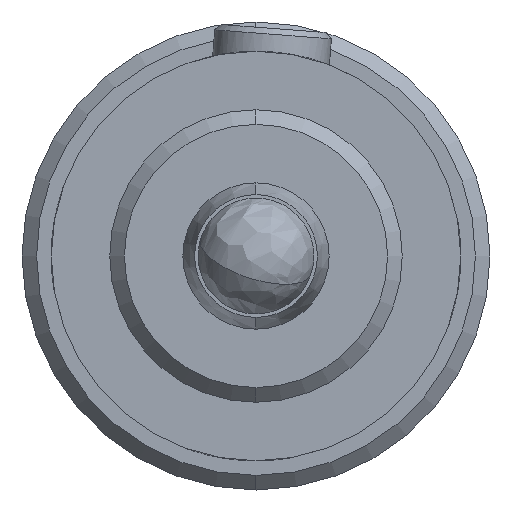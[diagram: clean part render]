
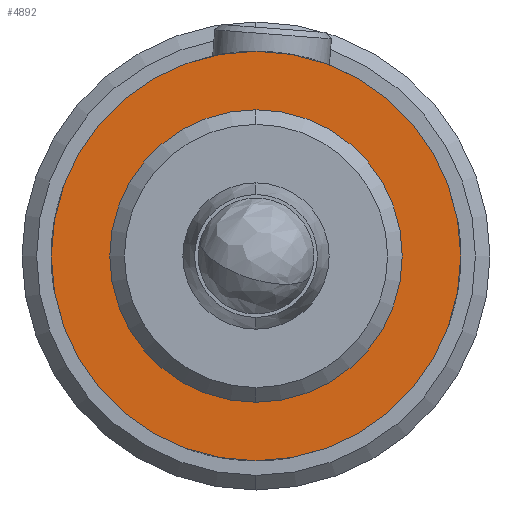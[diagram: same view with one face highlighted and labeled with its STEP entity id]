
A CAD part, left-side view. The second image highlights one B-rep face of the part: STEP entity #4892.
In plain terms, the highlighted planar face has unit normal (-1, 0, 0).
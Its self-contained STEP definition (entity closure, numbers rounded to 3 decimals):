
#1496 = CARTESIAN_POINT ( 'NONE',  ( 5.5, 5.36, 0. ) ) ;
#2280 = DIRECTION ( 'NONE',  ( 0., 1., 0. ) ) ;
#2281 = DIRECTION ( 'NONE',  ( -1., 0., 0. ) ) ;
#2282 = CARTESIAN_POINT ( 'NONE',  ( 5.5, -1.64, 0. ) ) ;
#2283 = AXIS2_PLACEMENT_3D ( 'NONE', #2282, #2281, #2280 ) ;
#2288 = CIRCLE ( 'NONE', #2283, 4.4 ) ;
#2355 = DIRECTION ( 'NONE',  ( 0., 1., 0. ) ) ;
#2356 = DIRECTION ( 'NONE',  ( 1., 0., 0. ) ) ;
#2371 = CARTESIAN_POINT ( 'NONE',  ( 5.5, -1.64, 0. ) ) ;
#2372 = AXIS2_PLACEMENT_3D ( 'NONE', #2371, #2356, #2355 ) ;
#2373 = PLANE ( 'NONE',  #2372 ) ;
#2375 = FACE_BOUND ( 'NONE', #4955, .T. ) ;
#2376 = FACE_OUTER_BOUND ( 'NONE', #4893, .T. ) ;
#2449 = CARTESIAN_POINT ( 'NONE',  ( 5.5, -1.64, 0. ) ) ;
#2509 = DIRECTION ( 'NONE',  ( 0., -1., 0. ) ) ;
#2510 = DIRECTION ( 'NONE',  ( 1., 0., 0. ) ) ;
#2511 = AXIS2_PLACEMENT_3D ( 'NONE', #2449, #2510, #2509 ) ;
#2512 = CIRCLE ( 'NONE', #2511, 7. ) ;
#4479 = VERTEX_POINT ( 'NONE', #1496 ) ;
#4865 = EDGE_CURVE ( 'NONE', #8535, #8534, #2288, .T. ) ;
#4875 = ORIENTED_EDGE ( 'NONE', *, *, #4865, .F. ) ;
#4876 = ORIENTED_EDGE ( 'NONE', *, *, #8542, .F. ) ;
#4892 = ADVANCED_FACE ( 'NONE', ( #2376, #2375 ), #2373, .F. ) ;
#4893 = EDGE_LOOP ( 'NONE', ( #4952, #4954 ) ) ;
#4952 = ORIENTED_EDGE ( 'NONE', *, *, #4953, .F. ) ;
#4953 = EDGE_CURVE ( 'NONE', #8445, #4479, #2512, .T. ) ;
#4954 = ORIENTED_EDGE ( 'NONE', *, *, #8444, .F. ) ;
#4955 = EDGE_LOOP ( 'NONE', ( #4875, #4876 ) ) ;
#6299 = CARTESIAN_POINT ( 'NONE',  ( 5.5, -8.64, 0. ) ) ;
#6300 = DIRECTION ( 'NONE',  ( 0., -1., 0. ) ) ;
#6301 = DIRECTION ( 'NONE',  ( 1., 0., 0. ) ) ;
#6302 = CARTESIAN_POINT ( 'NONE',  ( 5.5, -1.64, 0. ) ) ;
#6303 = AXIS2_PLACEMENT_3D ( 'NONE', #6302, #6301, #6300 ) ;
#6304 = CIRCLE ( 'NONE', #6303, 7. ) ;
#6308 = DIRECTION ( 'NONE',  ( -1., 0., 0. ) ) ;
#6309 = CARTESIAN_POINT ( 'NONE',  ( 5.5, -1.64, 0. ) ) ;
#6310 = AXIS2_PLACEMENT_3D ( 'NONE', #6309, #6308, #6375 ) ;
#6311 = CIRCLE ( 'NONE', #6310, 4.4 ) ;
#6319 = CARTESIAN_POINT ( 'NONE',  ( 5.5, 2.76, 0. ) ) ;
#6336 = CARTESIAN_POINT ( 'NONE',  ( 5.5, -6.04, 0. ) ) ;
#6375 = DIRECTION ( 'NONE',  ( 0., 1., 0. ) ) ;
#8444 = EDGE_CURVE ( 'NONE', #4479, #8445, #6304, .T. ) ;
#8445 = VERTEX_POINT ( 'NONE', #6299 ) ;
#8534 = VERTEX_POINT ( 'NONE', #6336 ) ;
#8535 = VERTEX_POINT ( 'NONE', #6319 ) ;
#8542 = EDGE_CURVE ( 'NONE', #8534, #8535, #6311, .T. ) ;
